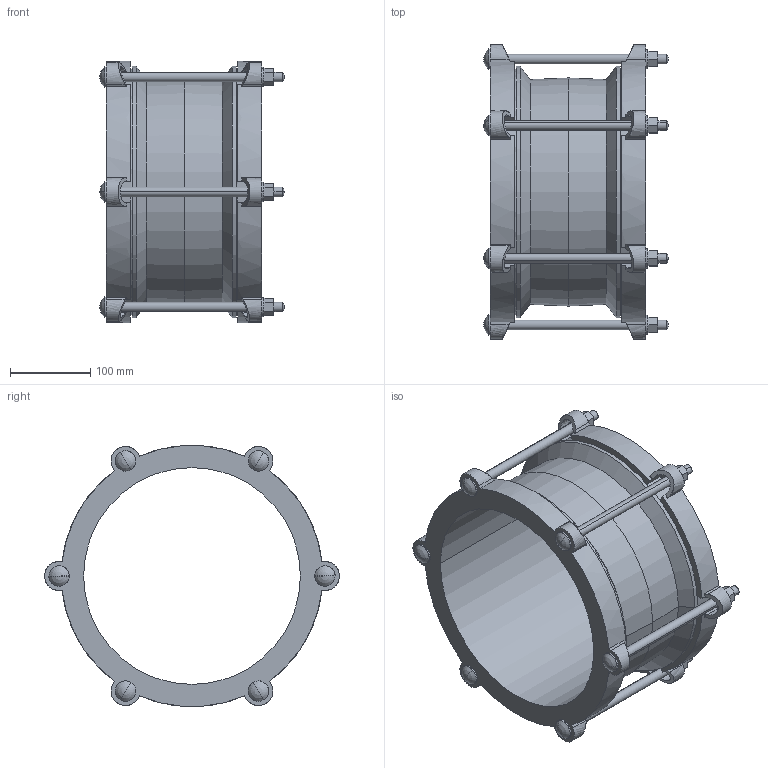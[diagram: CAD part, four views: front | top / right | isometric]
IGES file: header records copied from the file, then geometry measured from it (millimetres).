
Start section:  PTC IGES file: MAXIFIT_243-269.igs
Global section: file name: MAXIFIT_243-269.igs; native system: Creo Parametric by PTC Inc.; preprocessor: 2016130; author: MReader; organization: Unknown; date: 20180907.100658; units: millimetre
Bounding box: 230.33 x 367.5 x 326 mm (x, y, z)
Surface area: 532347.9 mm2 (no closed solid volume)
Topology: 0 solids, 0 shells, 286 faces, 1528 edges, 1504 vertices
Faces by surface type: bspline 148, revolution 138
